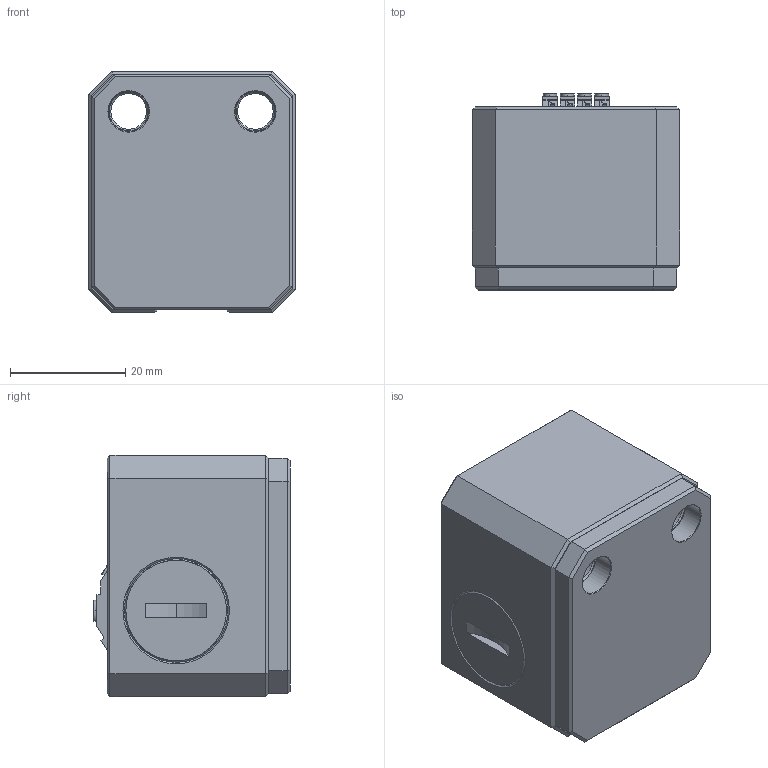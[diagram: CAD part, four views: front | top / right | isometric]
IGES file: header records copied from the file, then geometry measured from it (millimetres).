
Start section: START RECORD GO HERE.
Global section: file name: UM043642.igs; native system: DASSAULT SYSTEMES CATIA V5 R20 - www.3ds.com; preprocessor: CATIA Version 5 Release 20 ; author: Utente; organization: NB04-ASUS; date: 20201208.144241; units: millimetre
Bounding box: 36 x 34.1 x 42 mm (x, y, z)
Surface area: 21714.4 mm2 (no closed solid volume)
Topology: 0 solids, 0 shells, 1689 faces, 8490 edges, 8434 vertices
Faces by surface type: bspline 684, plane 525, revolution 480
